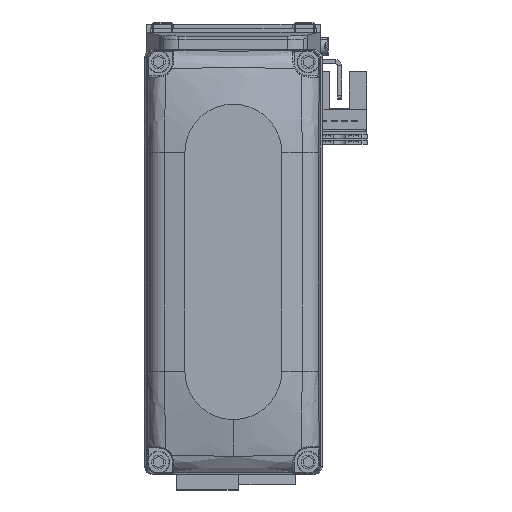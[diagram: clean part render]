
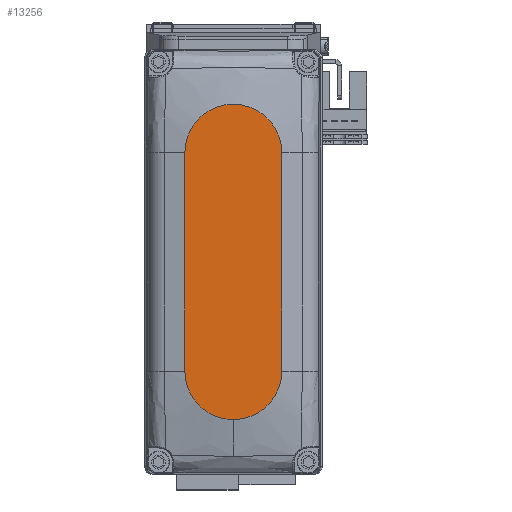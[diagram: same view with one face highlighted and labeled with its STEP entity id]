
A CAD part, top view. The second image highlights one B-rep face of the part: STEP entity #13256.
In plain terms, the highlighted planar face has unit normal (0, 0, 1).
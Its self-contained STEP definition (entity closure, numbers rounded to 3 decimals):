
#4018 = CIRCLE ( 'NONE', #26734, 12. ) ;
#4222 = ORIENTED_EDGE ( 'NONE', *, *, #18996, .T. ) ;
#5156 = DIRECTION ( 'NONE',  ( 1., 0., 0. ) ) ;
#5673 = CARTESIAN_POINT ( 'NONE',  ( -27., -12., 25. ) ) ;
#6428 = VERTEX_POINT ( 'NONE', #28436 ) ;
#7812 = CIRCLE ( 'NONE', #13028, 12. ) ;
#8175 = CARTESIAN_POINT ( 'NONE',  ( -27., -12., 25. ) ) ;
#8212 = PLANE ( 'NONE',  #26416 ) ;
#8483 = EDGE_CURVE ( 'NONE', #35987, #29228, #11343, .T. ) ;
#9153 = DIRECTION ( 'NONE',  ( 1., 0., 0. ) ) ;
#9817 = DIRECTION ( 'NONE',  ( -1., 0., 0. ) ) ;
#11209 = CARTESIAN_POINT ( 'NONE',  ( 27., -12., 25. ) ) ;
#11225 = CARTESIAN_POINT ( 'NONE',  ( 27., 0., 25. ) ) ;
#11343 = CIRCLE ( 'NONE', #34053, 12. ) ;
#11740 = DIRECTION ( 'NONE',  ( 1., 0., 0. ) ) ;
#12248 = ORIENTED_EDGE ( 'NONE', *, *, #38587, .T. ) ;
#13028 = AXIS2_PLACEMENT_3D ( 'NONE', #24575, #37007, #9153 ) ;
#13256 = ADVANCED_FACE ( 'NONE', ( #36081 ), #8212, .T. ) ;
#14270 = CARTESIAN_POINT ( 'NONE',  ( -27., 12., 25. ) ) ;
#16466 = EDGE_CURVE ( 'NONE', #33377, #35987, #25220, .T. ) ;
#18996 = EDGE_CURVE ( 'NONE', #29228, #31304, #36043, .T. ) ;
#20178 = ORIENTED_EDGE ( 'NONE', *, *, #8483, .T. ) ;
#20570 = DIRECTION ( 'NONE',  ( 1., 0., 0. ) ) ;
#20607 = CARTESIAN_POINT ( 'NONE',  ( 0., 0., 25. ) ) ;
#23128 = EDGE_CURVE ( 'NONE', #6428, #33377, #4018, .T. ) ;
#23609 = DIRECTION ( 'NONE',  ( 0., 0., 1. ) ) ;
#24575 = CARTESIAN_POINT ( 'NONE',  ( 27., 0., 25. ) ) ;
#25220 = LINE ( 'NONE', #37668, #35700 ) ;
#26416 = AXIS2_PLACEMENT_3D ( 'NONE', #20607, #32991, #5156 ) ;
#26734 = AXIS2_PLACEMENT_3D ( 'NONE', #11225, #23609, #36024 ) ;
#27137 = CARTESIAN_POINT ( 'NONE',  ( -27., 0., 25. ) ) ;
#28183 = ORIENTED_EDGE ( 'NONE', *, *, #23128, .T. ) ;
#28436 = CARTESIAN_POINT ( 'NONE',  ( 39., 0., 25. ) ) ;
#29228 = VERTEX_POINT ( 'NONE', #5673 ) ;
#29805 = EDGE_LOOP ( 'NONE', ( #35260, #20178, #4222, #12248, #28183 ) ) ;
#31304 = VERTEX_POINT ( 'NONE', #11209 ) ;
#32991 = DIRECTION ( 'NONE',  ( 0., 0., 1. ) ) ;
#33377 = VERTEX_POINT ( 'NONE', #39826 ) ;
#34053 = AXIS2_PLACEMENT_3D ( 'NONE', #27137, #39625, #11740 ) ;
#35121 = VECTOR ( 'NONE', #20570, 1000. ) ;
#35260 = ORIENTED_EDGE ( 'NONE', *, *, #16466, .T. ) ;
#35700 = VECTOR ( 'NONE', #9817, 1000. ) ;
#35987 = VERTEX_POINT ( 'NONE', #14270 ) ;
#36024 = DIRECTION ( 'NONE',  ( 1., 0., 0. ) ) ;
#36043 = LINE ( 'NONE', #8175, #35121 ) ;
#36081 = FACE_OUTER_BOUND ( 'NONE', #29805, .T. ) ;
#37007 = DIRECTION ( 'NONE',  ( 0., 0., 1. ) ) ;
#37668 = CARTESIAN_POINT ( 'NONE',  ( -27., 12., 25. ) ) ;
#38587 = EDGE_CURVE ( 'NONE', #31304, #6428, #7812, .T. ) ;
#39625 = DIRECTION ( 'NONE',  ( 0., 0., 1. ) ) ;
#39826 = CARTESIAN_POINT ( 'NONE',  ( 27., 12., 25. ) ) ;
